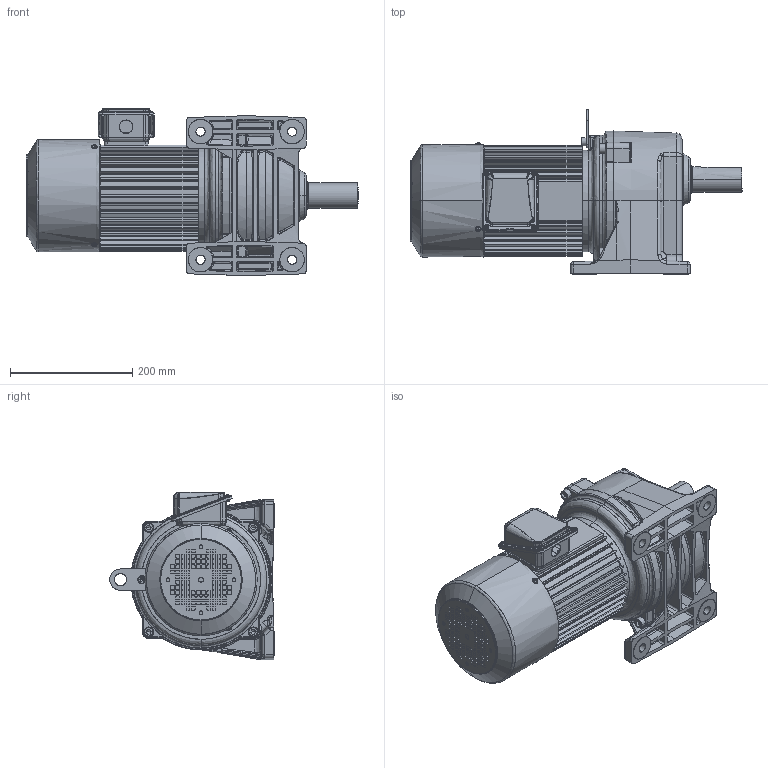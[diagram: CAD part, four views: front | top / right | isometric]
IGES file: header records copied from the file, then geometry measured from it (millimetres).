
Start section: SolidWorks IGES file using analytic representation for surfaces
Global section: file name: \\100.100.100.8\1_共有作業フォルダ\1-5_３Ｄデータ\solidworks\personal-folder\H.Nagayama\SGP1外形075~370\P1(3D)_075~370\igs\TMLB2-15-(30~80).IGS; native system: SolidWorks 2018; preprocessor: SolidWorks 2018; author: sigma-giken; date: 200807.144635; units: millimetre
Bounding box: 544 x 269.5 x 274 mm (x, y, z)
Surface area: 814367.1 mm2 (no closed solid volume)
Topology: 0 solids, 0 shells, 2749 faces, 30179 edges, 30128 vertices
Faces by surface type: bspline 1527, revolution 1222
